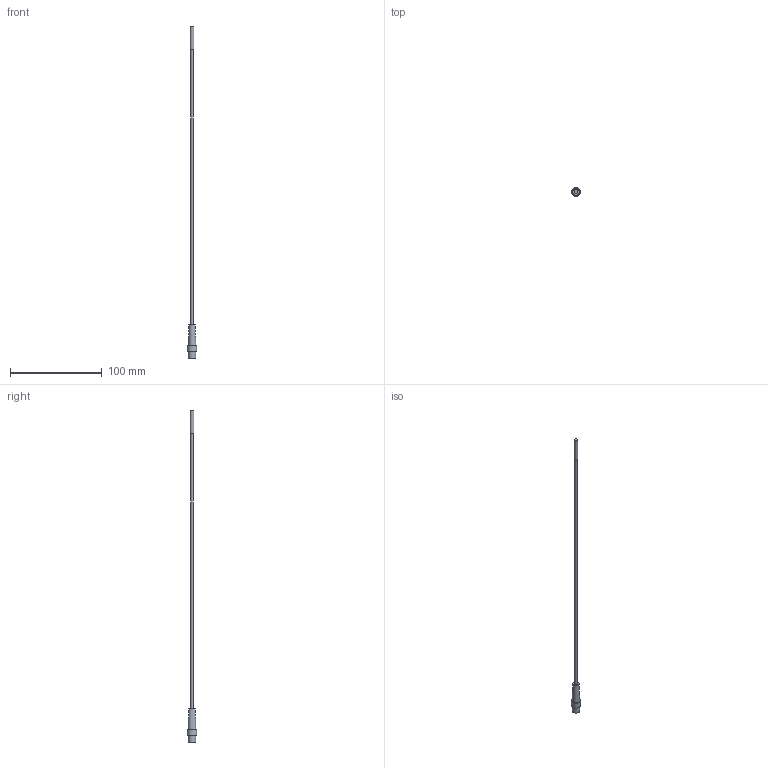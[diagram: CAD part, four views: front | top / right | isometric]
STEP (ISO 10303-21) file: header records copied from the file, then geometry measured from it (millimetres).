
FILE_DESCRIPTION(/* description */ ('Sensor GS04.009'),/* implementation_level */ '2;1');
FILE_NAME(/* name */ 'W:\Technik\Konstruktion\CAD-Daten\EOAT\GS_\GS04.009\Kundenzeichnung\GS04.009-Kd.stp',/* time_stamp */ '2020-04-14T09:14:59+02:00',/* author */ ('Rkob'),/* organization */ (''),/* preprocessor_version */ 'ST-DEVELOPER v17',/* originating_system */ 'Autodesk Inventor 2019',/* authorisation */ '');
FILE_SCHEMA (('AUTOMOTIVE_DESIGN { 1 0 10303 214 3 1 1 }'));
Length unit declared in the file: millimetre
Products named in the file (1): GS04.009
Bounding box: 10 x 10 x 362.5 mm (x, y, z)
Volume: 4109 mm3; surface area: 4064.9 mm2
Topology: 1 solids, 1 shells, 13 faces, 30 edges, 24 vertices
Faces by surface type: plane 7, cylinder 5, cone 1
Full cylindrical faces by diameter (mm): 1.5 x1, 2.8 x1, 4 x1, 8 x1, 10 x1
Entity records: 469 total; most frequent: CARTESIAN_POINT 103, DIRECTION 76, ORIENTED_EDGE 60, AXIS2_PLACEMENT_3D 35, EDGE_CURVE 30, VERTEX_POINT 24, CIRCLE 21, EDGE_LOOP 18
